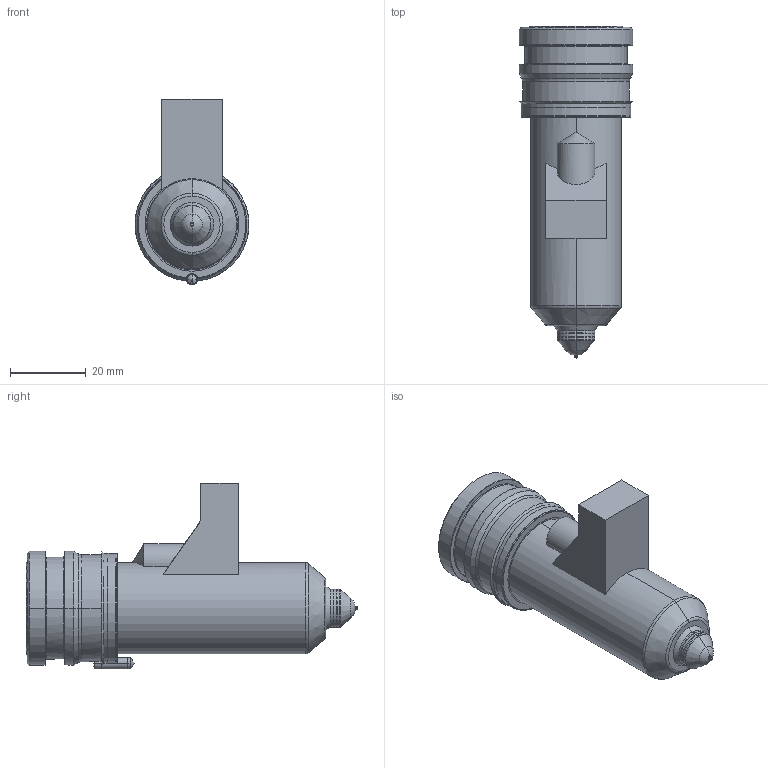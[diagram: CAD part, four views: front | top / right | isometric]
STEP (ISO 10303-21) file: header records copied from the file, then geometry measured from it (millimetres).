
FILE_DESCRIPTION((''),'2;1');
FILE_NAME('MPN-10-29-VX10-066-M','2026-02-05T12:56:22',('UPTIO'),('Thermoplay S.p.A.'),'CREO PARAMETRIC BY PTC INC, 2023494','CREO PARAMETRIC BY PTC INC, 2023494','');
FILE_SCHEMA(('CONFIG_CONTROL_DESIGN','SHAPE_APPEARANCE_LAYERS_GROUPS'));
Length unit declared in the file: millimetre
Products named in the file (1): MPN-10-29-VX10-066-M
Bounding box: 30 x 87.5 x 49 mm (x, y, z)
Volume: 28063.6 mm3; surface area: 28941.9 mm2
Topology: 3 solids, 5 shells, 547 faces, 1387 edges, 846 vertices
Faces by surface type: cylinder 179, plane 147, torus 71, bspline 70, cone 68, sphere 8, extrusion 4
Entity records: 28114 total; most frequent: CARTESIAN_POINT 12149, ORIENTED_EDGE 2760, DIRECTION 2638, EDGE_CURVE 1380, AXIS2_PLACEMENT_3D 1050, VERTEX_POINT 846, EDGE_LOOP 576, CIRCLE 576
